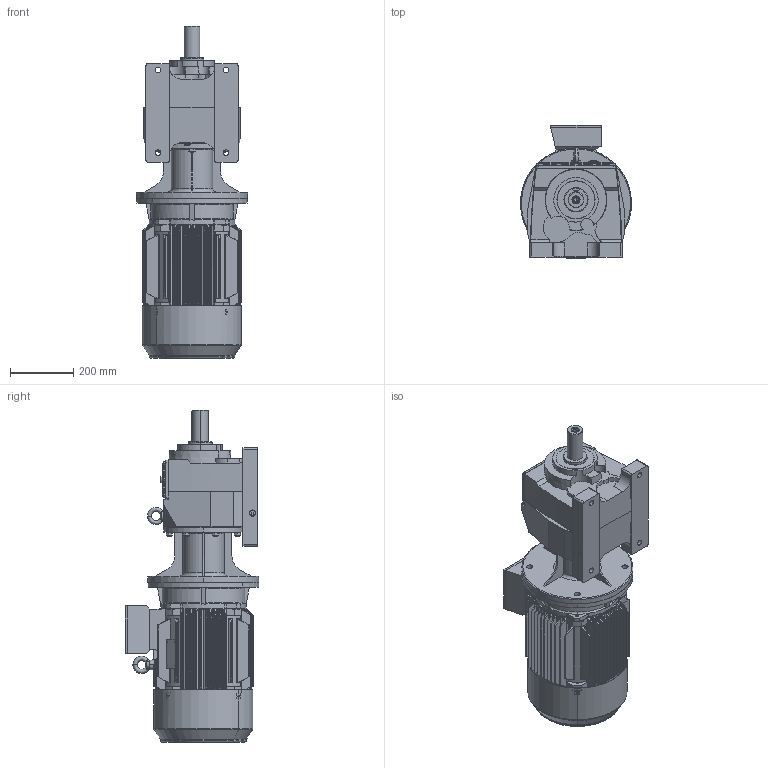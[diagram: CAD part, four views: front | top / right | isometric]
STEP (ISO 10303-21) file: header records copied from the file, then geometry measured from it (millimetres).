
FILE_DESCRIPTION (( 'STEP AP203' ), '1' );
FILE_NAME ('MV472-MV473-M3-160M.STEP', '2019-07-24T07:53:20', ( '' ), ( '' ), 'SwSTEP 2.0', 'SolidWorks 2012', '' );
FILE_SCHEMA (( 'CONFIG_CONTROL_DESIGN' ));
Products named in the file (15): Y2-160_shaft; M3-160M-FF-B5; MV472-MV473-M3-160M; Y2-160ñ»ª­+¿_-++ñ; Y2-160-180ñ»ª­®+_-++ñ; Y2-160M+À+¿(B5)_-++ñ; +ª+§ªiY2-160ñ»ª­_-++ñ; Y2-160-2ª¥--®+_-++ñ; Eyebolts GB_GB_FASTENER_SCREWS_FRS M12; Y2-160-4Ý¾6Ý¾8-ª+---®+_-++ñ; +¦i-MN2-160_-++ñ; ML4A_Varsayìlan; 43160B5_Varsayìlan; MN_47_3_0_A-B16_B5_ML4A_0_0_0_0_0_0_0_0_0_0_0_0_M1; M473_Varsayìlan
Assembly tree (14 placements, depth 4):
  MV472-MV473-M3-160M
    MN_47_3_0_A-B16_B5_ML4A_0_0_0_0_0_0_0_0_0_0_0_0_M1
      M473_Varsayìlan
      43160B5_Varsayìlan
      ML4A_Varsayìlan
    M3-160M-FF-B5
      Eyebolts GB_GB_FASTENER_SCREWS_FRS M12
      Y2-160-4Ý¾6Ý¾8-ª+---®+_-++ñ
      +¦i-MN2-160_-++ñ
      Y2-160-2ª¥--®+_-++ñ
      +ª+§ªiY2-160ñ»ª­_-++ñ
        Y2-160-180ñ»ª­®+_-++ñ
        Y2-160ñ»ª­+¿_-++ñ
      Y2-160M+À+¿(B5)_-++ñ
      Y2-160_shaft
Bounding box: 350 x 422 x 1046 mm (x, y, z)
Volume: 30341535.9 mm3; surface area: 3237623.9 mm2
Topology: 11 solids, 11 shells, 2162 faces, 5581 edges, 3523 vertices
Faces by surface type: cylinder 780, plane 747, cone 307, bspline 225, torus 63, sphere 40
Entity records: 107682 total; most frequent: CARTESIAN_POINT 56592, ORIENTED_EDGE 11066, DIRECTION 9168, EDGE_CURVE 5533, VERTEX_POINT 3508, AXIS2_PLACEMENT_3D 3424, EDGE_LOOP 2405, LINE 2320
